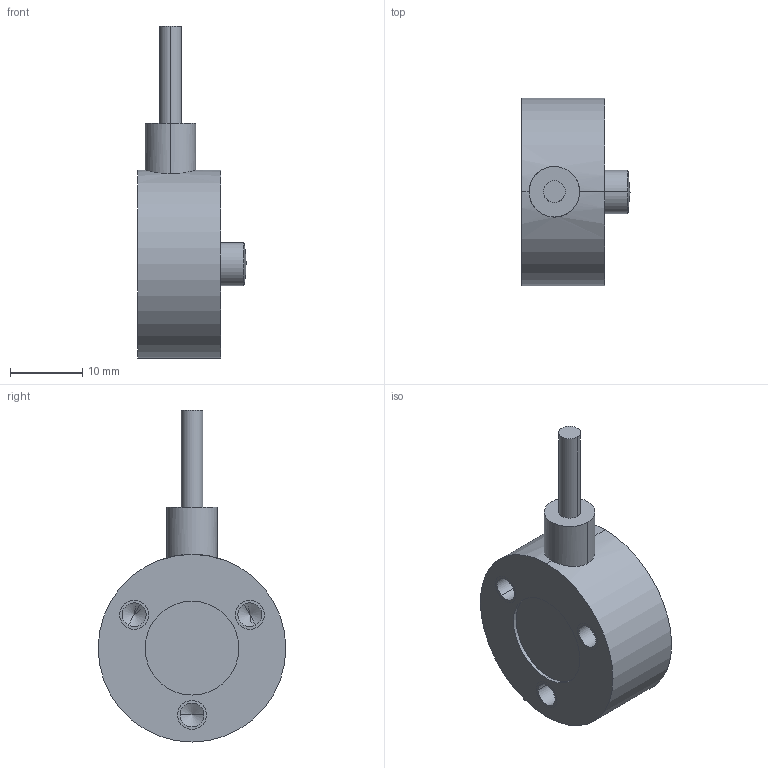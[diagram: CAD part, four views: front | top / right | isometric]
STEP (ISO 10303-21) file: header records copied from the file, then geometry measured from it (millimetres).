
FILE_DESCRIPTION((''),'2;1');
FILE_NAME('14M1_2T_WXT','2025-07-22T09:11:29',('DELL'),(''),'CREO PARAMETRIC BY PTC INC, 2020354','CREO PARAMETRIC BY PTC INC, 2020354','');
FILE_SCHEMA(('CONFIG_CONTROL_DESIGN'));
Length unit declared in the file: millimetre
Products named in the file (1): 14M1_2T_WXT
Bounding box: 15 x 26 x 46 mm (x, y, z)
Volume: 6348 mm3; surface area: 2717.8 mm2
Topology: 1 solids, 4 shells, 38 faces, 91 edges, 56 vertices
Faces by surface type: cylinder 22, plane 8, cone 6, sphere 2
Entity records: 1143 total; most frequent: CARTESIAN_POINT 218, DIRECTION 207, ORIENTED_EDGE 154, AXIS2_PLACEMENT_3D 89, EDGE_CURVE 83, VERTEX_POINT 56, CIRCLE 50, EDGE_LOOP 47
